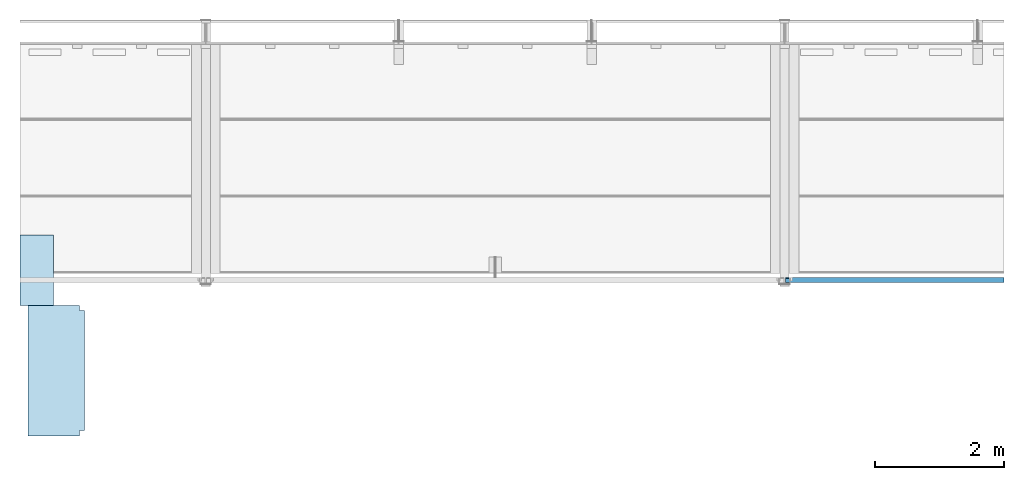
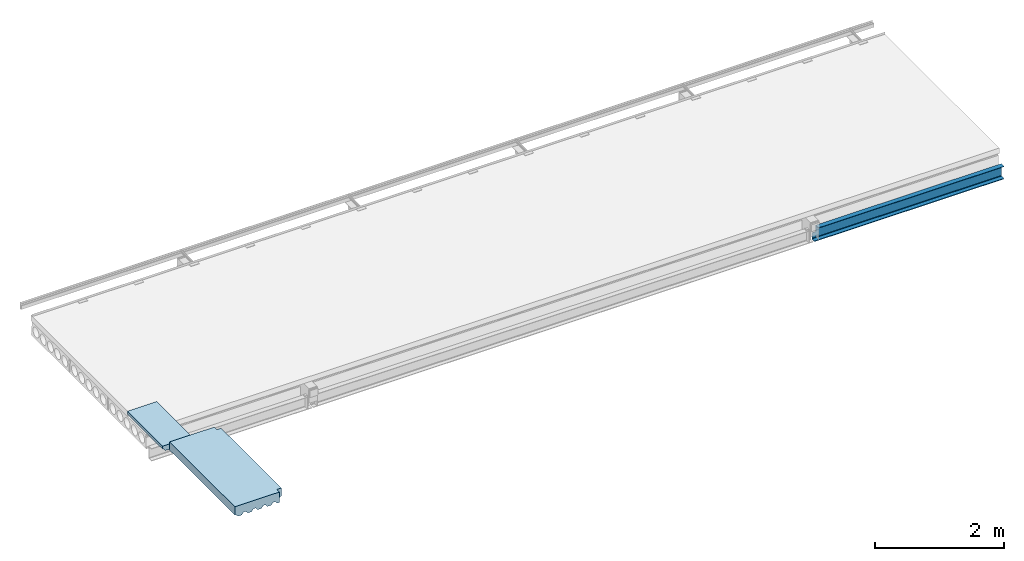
# One storey, part 8 of 8: 2 slabs, 1 beam.
"""IFC2X3 building model written with IfcOpenShell, lengths in millimetres."""

from ifc_helpers import new_model, entity, si_unit, converted_unit, derived_unit, direction, frame, origin_with_axes, place, context, subcontext, project, spatial, faceted_brep, material, type_object, element, save


model = new_model("IFC2X3")

# Units and contexts
model_context = context("Model", 3, precision=0.01, world=frame((0.0, 4.29681676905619e-09, 0.0)), true_north=direction((4.01073788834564e-13, 1.0)))
plan_context = context("Plan", 3, precision=0.01, world=frame((0.0, 4.29681676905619e-09, 0.0)), true_north=direction((4.01073788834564e-13, 1.0)))
body_context = subcontext(model_context, "Body", "Model", "MODEL_VIEW")
ifc_project = project(units=[converted_unit("PLANEANGLEUNIT", "DEGREE", entity("IfcPositiveLengthMeasure", 0.0174532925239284), si_unit("PLANEANGLEUNIT", "RADIAN"), dimensions=[0, 0, 0, 0, 0, 0, 0]), si_unit("AREAUNIT", "SQUARE_METRE"), si_unit("LENGTHUNIT", "METRE", prefix="MILLI"), si_unit("MASSUNIT", "GRAM", prefix="KILO"), si_unit("POWERUNIT", "WATT"), si_unit("PRESSUREUNIT", "PASCAL"), si_unit("FORCEUNIT", "NEWTON", prefix="KILO"), si_unit("ELECTRICVOLTAGEUNIT", "VOLT"), si_unit("ELECTRICCURRENTUNIT", "AMPERE"), si_unit("THERMODYNAMICTEMPERATUREUNIT", "DEGREE_CELSIUS"), si_unit("TIMEUNIT", "SECOND"), si_unit("VOLUMEUNIT", "CUBIC_METRE"), derived_unit("LINEARVELOCITYUNIT", [(si_unit("LENGTHUNIT", "METRE"), 1), (si_unit("TIMEUNIT", "SECOND"), -1)]), derived_unit("VOLUMETRICFLOWRATEUNIT", [(si_unit("VOLUMEUNIT", "CUBIC_METRE"), 1), (si_unit("TIMEUNIT", "SECOND"), -1)]), derived_unit("THERMALTRANSMITTANCEUNIT", [(si_unit("POWERUNIT", "WATT"), 1), (si_unit("THERMODYNAMICTEMPERATUREUNIT", "KELVIN"), -1), (si_unit("AREAUNIT", "SQUARE_METRE"), -1)]), derived_unit("SOUNDPRESSUREUNIT", [(si_unit("PRESSUREUNIT", "PASCAL"), 1)])], contexts=[model_context, plan_context])

# Site, building, storey
site_placement = place(None, frame((0.0, -4.29681676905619e-09, 0.0), z_axis=(0.0, 0.0, 1.0), x_axis=(1.0, 0.0, 0.0)))
site = spatial("IfcSite", under=ifc_project, at=site_placement, Name="Gardermoen", CompositionType="ELEMENT")
building_placement = place(site_placement, frame((0.0, 4.29681676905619e-09, 0.0), z_axis=(0.0, 0.0, 1.0), x_axis=(1.0, 0.0, 0.0)))
building = spatial("IfcBuilding", under=site, at=building_placement, Name="TH", CompositionType="ELEMENT")
storey_placement = place(building_placement, origin_with_axes())
storey = spatial("IfcBuildingStorey", under=building, at=storey_placement, Name="G", CompositionType="ELEMENT", Elevation=0.0)

# Beam
beam_type = type_object("IfcBeamType", Name="UNP240", PredefinedType="NOTDEFINED")
beam_placement = place(storey_placement, frame((915989.999766, 480777.504375, 213280.0), z_axis=(-6.61744490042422e-24, 0.0, -1.0), x_axis=(-1.0, 0.0, 6.61744490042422e-24)))
element("IfcBeam", 1, at=beam_placement, inside=storey, type_object=beam_type, Name="STÅLBJELKE", ObjectType="UNP240", context=body_context, shape_type="Brep", body=[
    faceted_brep([(5579.41476100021, 42.5, 120.0), (5579.41476100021, 42.5, -119.999991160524), (8910.0, 42.5, -119.99998581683), (8910.0, 42.5, -3.0), (8980.0, 42.5, -3.0), (8980.0, 42.5, 120.0), (5579.41476100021, 42.5, -120.0), (5579.41476100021, -42.5, -120.0), (8910.0, -42.5, -120.0), (8910.0, 42.5, -120.0), (5579.41476100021, -42.5, -119.999991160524), (5579.41476100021, -42.5, -116.52), (8910.0, -42.5, -116.52), (8910.0, -42.5, -119.99998581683), (5579.41476100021, -42.375104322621, -115.251912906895), (8910.0, -42.375104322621, -115.251912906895), (5579.41476100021, -42.0052169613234, -114.032557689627), (8910.0, -42.0052169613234, -114.032557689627), (5579.41476100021, -41.4045524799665, -112.908793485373), (8910.0, -41.4045524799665, -112.908793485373), (5579.41476100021, -40.5961940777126, -111.923805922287), (8910.0, -40.5961940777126, -111.923805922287), (5579.41476100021, -39.6112065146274, -111.115447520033), (8910.0, -39.6112065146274, -111.115447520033), (5579.41476100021, -38.4874423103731, -110.514783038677), (8910.0, -38.4874423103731, -110.514783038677), (5579.41476100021, -37.2680870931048, -110.144895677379), (8910.0, -37.2680870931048, -110.144895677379), (5579.41476100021, -36.0, -110.02), (8910.0, -36.0, -110.02), (5579.41476100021, 20.0, -103.98), (8910.0, 20.0, -103.98), (5579.41476100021, 22.5361741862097, -103.730208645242), (8910.0, 22.5361741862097, -103.730208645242), (5579.41476100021, 24.9748846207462, -102.990433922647), (8910.0, 24.9748846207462, -102.990433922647), (5579.41476100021, 27.2224130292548, -101.789104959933), (8910.0, 27.2224130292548, -101.789104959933), (5579.41476100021, 29.1923881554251, -100.172388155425), (8910.0, 29.1923881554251, -100.172388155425), (5579.41476100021, 30.8091049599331, -98.2024130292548), (8910.0, 30.8091049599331, -98.2024130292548), (5579.41476100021, 32.0104339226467, -95.9548846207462), (8910.0, 32.0104339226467, -95.9548846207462), (5579.41476100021, 32.750208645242, -93.5161741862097), (8910.0, 32.750208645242, -93.5161741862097), (5579.41476100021, 33.0, -90.98), (8910.0, 33.0, -90.98), (5579.41476100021, 33.0, 90.98), (8980.0, 33.0, 90.98), (8980.0, 33.0, -3.0), (8910.0, 33.0, -3.0), (5579.41476100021, 32.750208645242, 93.5161741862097), (8980.0, 32.750208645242, 93.5161741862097), (5579.41476100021, 32.0104339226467, 95.9548846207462), (8980.0, 32.0104339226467, 95.9548846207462), (5579.41476100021, 30.8091049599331, 98.2024130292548), (8980.0, 30.8091049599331, 98.2024130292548), (5579.41476100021, 29.1923881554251, 100.172388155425), (8980.0, 29.1923881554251, 100.172388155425), (5579.41476100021, 27.2224130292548, 101.789104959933), (8980.0, 27.2224130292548, 101.789104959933), (5579.41476100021, 24.9748846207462, 102.990433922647), (8980.0, 24.9748846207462, 102.990433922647), (5579.41476100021, 22.5361741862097, 103.730208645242), (8980.0, 22.5361741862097, 103.730208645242), (5579.41476100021, 20.0, 103.98), (8980.0, 20.0, 103.98), (5579.41476100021, -36.0, 110.02), (8980.0, -36.0, 110.02), (5579.41476100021, -37.2680870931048, 110.144895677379), (8980.0, -37.2680870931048, 110.144895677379), (5579.41476100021, -38.4874423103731, 110.514783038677), (8980.0, -38.4874423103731, 110.514783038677), (5579.41476100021, -39.6112065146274, 111.115447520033), (8980.0, -39.6112065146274, 111.115447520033), (5579.41476100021, -40.5961940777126, 111.923805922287), (8980.0, -40.5961940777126, 111.923805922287), (5579.41476100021, -41.4045524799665, 112.908793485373), (8980.0, -41.4045524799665, 112.908793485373), (5579.41476100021, -42.0052169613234, 114.032557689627), (8980.0, -42.0052169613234, 114.032557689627), (5579.41476100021, -42.375104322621, 115.251912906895), (8980.0, -42.375104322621, 115.251912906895), (5579.41476100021, -42.5, 116.52), (8980.0, -42.5, 116.52), (5579.41476100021, -42.5, 120.0), (8980.0, -42.5, 120.0)], [[[0, 1, 2, 3, 4, 5]], [[6, 7, 8, 9]], [[10, 11, 12, 13]], [[11, 14, 15, 12]], [[14, 16, 17, 15]], [[16, 18, 19, 17]], [[18, 20, 21, 19]], [[20, 22, 23, 21]], [[22, 24, 25, 23]], [[24, 26, 27, 25]], [[26, 28, 29, 27]], [[28, 30, 31, 29]], [[30, 32, 33, 31]], [[32, 34, 35, 33]], [[34, 36, 37, 35]], [[36, 38, 39, 37]], [[38, 40, 41, 39]], [[40, 42, 43, 41]], [[42, 44, 45, 43]], [[44, 46, 47, 45]], [[46, 48, 49, 50, 51, 47]], [[48, 52, 53, 49]], [[52, 54, 55, 53]], [[54, 56, 57, 55]], [[56, 58, 59, 57]], [[58, 60, 61, 59]], [[60, 62, 63, 61]], [[62, 64, 65, 63]], [[64, 66, 67, 65]], [[66, 68, 69, 67]], [[68, 70, 71, 69]], [[70, 72, 73, 71]], [[72, 74, 75, 73]], [[74, 76, 77, 75]], [[76, 78, 79, 77]], [[78, 80, 81, 79]], [[80, 82, 83, 81]], [[82, 84, 85, 83]], [[84, 86, 87, 85]], [[86, 0, 5, 87]], [[4, 50, 49, 53, 55, 57, 59, 61, 63, 65, 67, 69, 71, 73, 75, 77, 79, 81, 83, 85, 87, 5]], [[4, 3, 51, 50]], [[3, 9, 8, 12, 15, 17, 19, 21, 23, 25, 27, 29, 31, 33, 35, 37, 39, 41, 43, 45, 47, 51]], [[86, 84, 82, 80, 78, 76, 74, 72, 70, 68, 66, 64, 62, 60, 58, 56, 54, 52, 48, 46, 44, 42, 40, 38, 36, 34, 32, 30, 28, 26, 24, 22, 20, 18, 16, 14, 11, 7, 1, 0]]], orient=[[False], [False], [False], [False], [False], [False], [False], [False], [False], [False], [False], [False], [False], [False], [False], [False], [False], [False], [False], [False], [False], [False], [False], [False], [False], [False], [False], [False], [False], [False], [False], [False], [False], [False], [False], [False], [False], [False], [False], [False], [False], [False], [False], [False]]),
])

# Slabs
slab_type_1 = type_object("IfcSlabType", Name="PLNJABE56.4*40*42.6*71*32.5", PredefinedType="NOTDEFINED")
slab_1_placement = place(storey_placement, frame((895196.001497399, 480385.000465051, 213610.5), z_axis=(0.0, 0.0, 1.0), x_axis=(-2.34299995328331e-06, 0.999999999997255, 0.0)))
element("IfcSlab", 2, at=slab_1_placement, inside=storey, type_object=slab_type_1, Name="PLASSTØPTDEKKE", ObjectType="PLNJABE56.4*40*42.6*71*32.5", PredefinedType="FLOOR", context=body_context, shape_type="Brep", body=[
    faceted_brep([(1.31732022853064e-08, 84.095328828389, 49.499999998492), (1095.00205200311, 84.0927632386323, 49.5), (1095.002052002, -440.000000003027, 49.5), (0.0, -440.0, 49.5), (1095.002052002, -440.000000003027, -6.89999999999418), (0.0, -440.0, -6.89999999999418), (1095.002052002, -420.000000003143, -6.89999999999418), (0.0, -420.0, -6.89999999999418), (1095.00205200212, -387.500000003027, -49.5), (0.0, -387.5, -49.5), (1095.00205200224, -316.50000000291, -49.5), (0.0, -316.5, -49.5), (1095.0020520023, -284.000000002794, -6.89999999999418), (0.0, -284.0, -6.89999999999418), (1095.00205200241, -244.000000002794, -6.89999999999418), (0.0, -244.0, -6.89999999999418), (1095.00205200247, -211.500000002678, -49.5), (0.0, -211.5, -49.5), (1095.00205200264, -140.500000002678, -49.5), (0.0, -140.5, -49.5), (1095.0020520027, -108.000000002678, -6.89999999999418), (0.0, -108.0, -6.89999999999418), (1095.00205200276, -68.0000000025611, -6.89999999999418), (0.0, -68.0, -6.89999999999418), (1095.00205200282, -35.5000000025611, -49.5), (0.0, -35.5, -49.5), (1095.00205200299, 35.4999999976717, -49.5), (0.0, 35.5, -49.5), (1095.00205200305, 67.9999999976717, -6.89999999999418), (0.0, 68.0, -6.89999999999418), (1095.0020520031, 84.0927632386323, -6.89999999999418), (0.0, 84.095328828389, -6.89999999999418)], [[[0, 1, 2, 3]], [[2, 4, 5, 3]], [[4, 6, 7, 5]], [[6, 8, 9, 7]], [[8, 10, 11, 9]], [[10, 12, 13, 11]], [[12, 14, 15, 13]], [[14, 16, 17, 15]], [[16, 18, 19, 17]], [[18, 20, 21, 19]], [[20, 22, 23, 21]], [[22, 24, 25, 23]], [[24, 26, 27, 25]], [[26, 28, 29, 27]], [[30, 31, 29, 28]], [[1, 30, 28, 26, 24, 22, 20, 18, 16, 14, 12, 10, 8, 6, 4, 2]], [[31, 0, 3, 5, 7, 9, 11, 13, 15, 17, 19, 21, 23, 25, 27, 29]], [[31, 30, 1, 0]]], orient=[[False], [False], [False], [False], [False], [False], [False], [False], [False], [False], [False], [False], [False], [False], [False], [False], [False], [False]]),
])
ifc_material = material(Name="CONCRETE/C35/45")
slab_type_2 = type_object("IfcSlabType", Name="PLNJABE155*40*42.6*71*32.5", PredefinedType="NOTDEFINED")
slab_2_placement = place(storey_placement, frame((895675.001497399, 478355.000465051, 213599.8), z_axis=(0.0, 0.0, 1.0), x_axis=(0.0, 1.0, 0.0)))
element("IfcSlab", 3, at=slab_2_placement, inside=storey, type_object=slab_type_2, material=ifc_material, Name="PLASSTØPTDEKKE", ObjectType="PLNJABE155*40*42.6*71*32.5", PredefinedType="FLOOR", context=body_context, shape_type="Brep", body=[
    faceted_brep([(1950.00468401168, -440.000096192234, 98.7999999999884), (1950.00468401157, -440.000000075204, -56.2000000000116), (1950.00445967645, -420.000000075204, -56.2000000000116), (1950.0040951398, -387.500000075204, -98.7999999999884), (1950.00378663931, -359.995861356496, -98.7999999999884), (1950.00378663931, -359.995861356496, 98.7999999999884), (2030.00378663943, -359.995935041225, 98.7999999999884), (2030.00205200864, -359.995935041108, -98.7999999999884), (-8.26548784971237e-09, 420.000000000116, -56.2000000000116), (-8.67294147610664e-09, 440.000000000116, -56.2000000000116), (2030.00205199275, 439.999999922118, -56.2000000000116), (2030.00205199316, 419.999999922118, -56.2000000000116), (-7.6834112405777e-09, 387.500000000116, -98.7999999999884), (2030.0020519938, 387.499999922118, -98.7999999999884), (-6.22821971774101e-09, 316.500000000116, -98.7999999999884), (2030.00205199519, 316.499999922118, -98.7999999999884), (-5.58793544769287e-09, 284.0, -56.2000000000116), (2030.00205199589, 283.999999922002, -56.2000000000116), (-4.77302819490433e-09, 244.000000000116, -56.2000000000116), (2030.00205199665, 243.999999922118, -56.2000000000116), (-4.19095158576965e-09, 211.5, -98.7999999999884), (2030.00205199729, 211.499999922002, -98.7999999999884), (-2.73576006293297e-09, 140.5, -98.7999999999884), (2030.00205199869, 140.499999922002, -98.7999999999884), (-2.09547579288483e-09, 108.0, -56.2000000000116), (2030.00205199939, 107.999999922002, -56.2000000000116), (-1.28056854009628e-09, 67.9999999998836, -56.2000000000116), (2030.00205200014, 67.9999999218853, -56.2000000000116), (-6.98491930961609e-10, 35.4999999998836, -98.7999999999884), (2030.00205200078, 35.4999999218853, -98.7999999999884), (7.56699591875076e-10, -35.5, -98.7999999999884), (2030.00205200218, -35.5000000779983, -98.7999999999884), (1.39698386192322e-09, -68.0000000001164, -56.2000000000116), (2030.00205200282, -68.0000000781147, -56.2000000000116), (2.21189111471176e-09, -108.000000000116, -56.2000000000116), (2030.00205200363, -108.000000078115, -56.2000000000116), (2.79396772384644e-09, -140.500000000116, -98.7999999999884), (2030.00205200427, -140.500000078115, -98.7999999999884), (4.24915924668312e-09, -211.500000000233, -98.7999999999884), (2030.00205200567, -211.500000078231, -98.7999999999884), (4.88944351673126e-09, -244.000000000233, -56.2000000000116), (2030.00205200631, -244.000000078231, -56.2000000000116), (5.64614310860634e-09, -284.000000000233, -56.2000000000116), (2030.00205200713, -284.000000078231, -56.2000000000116), (6.28642737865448e-09, -316.500000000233, -98.7999999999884), (2030.00205200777, -316.500000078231, -98.7999999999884), (79.9993052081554, -440.002342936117, 98.7999999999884), (79.9992034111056, -359.998345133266, 98.7999999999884), (79.9992034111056, -359.998345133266, -98.7999999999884), (79.9992384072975, -387.50000000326, -98.7999999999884), (79.9992797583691, -420.000000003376, -56.2000000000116), (79.9993052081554, -440.00000000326, -56.2000000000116), (7.21774995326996e-09, -359.998271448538, 98.7999999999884), (7.21774995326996e-09, -359.998271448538, -98.7999999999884), (-8.67294147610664e-09, 440.000000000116, 98.7999999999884), (2030.00205199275, 439.999999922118, 98.7999999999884)], [[[0, 1, 2, 3, 4, 5]], [[6, 5, 4, 7]], [[8, 9, 10, 11]], [[12, 8, 11, 13]], [[14, 12, 13, 15]], [[16, 14, 15, 17]], [[18, 16, 17, 19]], [[20, 18, 19, 21]], [[22, 20, 21, 23]], [[24, 22, 23, 25]], [[26, 24, 25, 27]], [[28, 26, 27, 29]], [[30, 28, 29, 31]], [[32, 30, 31, 33]], [[34, 32, 33, 35]], [[36, 34, 35, 37]], [[38, 36, 37, 39]], [[40, 38, 39, 41]], [[42, 40, 41, 43]], [[44, 42, 43, 45]], [[46, 47, 48, 49, 50, 51]], [[52, 53, 48, 47]], [[54, 9, 8, 12, 14, 16, 18, 20, 22, 24, 26, 28, 30, 32, 34, 36, 38, 40, 42, 44, 53, 52]], [[9, 54, 55, 10]], [[45, 43, 41, 39, 37, 35, 33, 31, 29, 27, 25, 23, 21, 19, 17, 15, 13, 11, 10, 55, 6, 7]], [[3, 49, 48, 53, 44, 45, 7, 4]], [[50, 49, 3, 2]], [[51, 50, 2, 1]], [[46, 51, 1, 0]], [[55, 54, 52, 47, 46, 0, 5, 6]]]),
])

save(model, "model.ifc")
